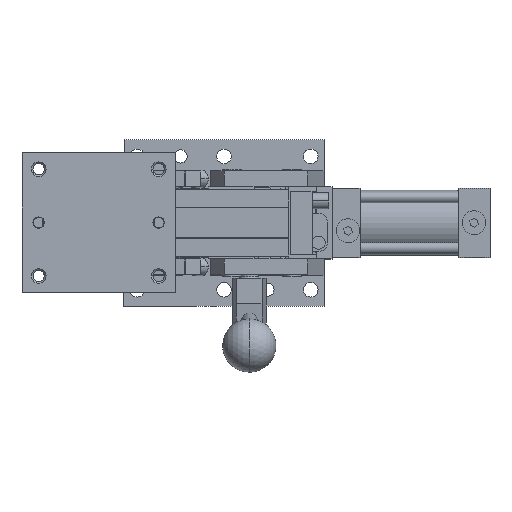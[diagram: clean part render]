
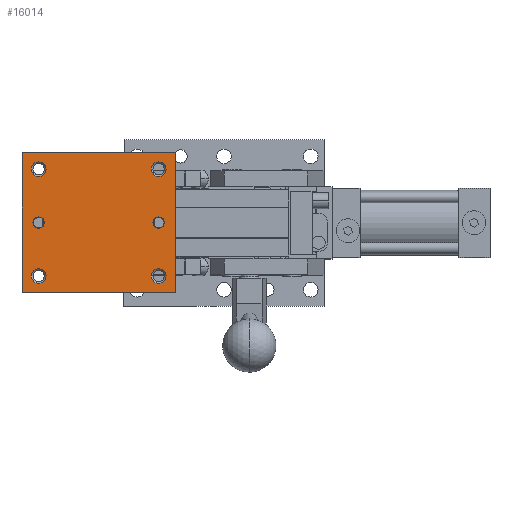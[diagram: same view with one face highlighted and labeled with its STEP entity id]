
A CAD part, top view. The second image highlights one B-rep face of the part: STEP entity #16014.
In plain terms, the highlighted planar face has unit normal (0, 0, 1).
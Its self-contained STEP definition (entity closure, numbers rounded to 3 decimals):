
#191 = EDGE_CURVE ( 'NONE', #2738, #15723, #993, .T. ) ;
#222 = AXIS2_PLACEMENT_3D ( 'NONE', #10926, #7879, #907 ) ;
#231 = CARTESIAN_POINT ( 'NONE',  ( 4.25, 45., 12. ) ) ;
#358 = CARTESIAN_POINT ( 'NONE',  ( -40., 45., 12. ) ) ;
#384 = EDGE_LOOP ( 'NONE', ( #14537, #12279 ) ) ;
#453 = FACE_BOUND ( 'NONE', #11788, .T. ) ;
#600 = VERTEX_POINT ( 'NONE', #3886 ) ;
#641 = AXIS2_PLACEMENT_3D ( 'NONE', #11384, #10239, #3204 ) ;
#681 = VERTEX_POINT ( 'NONE', #14172 ) ;
#726 = FACE_BOUND ( 'NONE', #1777, .T. ) ;
#785 = CIRCLE ( 'NONE', #222, 5.5 ) ;
#907 = DIRECTION ( 'NONE',  ( 1., 0., 0. ) ) ;
#993 = LINE ( 'NONE', #9725, #4895 ) ;
#1035 = EDGE_LOOP ( 'NONE', ( #8105, #9483 ) ) ;
#1039 = DIRECTION ( 'NONE',  ( 1., 0., 0. ) ) ;
#1054 = CARTESIAN_POINT ( 'NONE',  ( -40., -45., 12. ) ) ;
#1110 = EDGE_CURVE ( 'NONE', #17004, #14880, #1320, .T. ) ;
#1169 = DIRECTION ( 'NONE',  ( 1., 0., 0. ) ) ;
#1185 = DIRECTION ( 'NONE',  ( -1., 0., 0. ) ) ;
#1244 = CARTESIAN_POINT ( 'NONE',  ( 40., -45., 12. ) ) ;
#1320 = CIRCLE ( 'NONE', #13153, 5.5 ) ;
#1336 = CARTESIAN_POINT ( 'NONE',  ( -34.5, -45., 12. ) ) ;
#1659 = VERTEX_POINT ( 'NONE', #10738 ) ;
#1684 = AXIS2_PLACEMENT_3D ( 'NONE', #3334, #8815, #10383 ) ;
#1777 = EDGE_LOOP ( 'NONE', ( #2574, #3566 ) ) ;
#1855 = FACE_BOUND ( 'NONE', #2280, .T. ) ;
#1884 = CARTESIAN_POINT ( 'NONE',  ( 4.25, -45., 12. ) ) ;
#1974 = EDGE_CURVE ( 'NONE', #15773, #600, #3594, .T. ) ;
#2280 = EDGE_LOOP ( 'NONE', ( #3527, #3019 ) ) ;
#2315 = DIRECTION ( 'NONE',  ( 0., 0., 1. ) ) ;
#2574 = ORIENTED_EDGE ( 'NONE', *, *, #10318, .F. ) ;
#2578 = CARTESIAN_POINT ( 'NONE',  ( 40., 45., 12. ) ) ;
#2738 = VERTEX_POINT ( 'NONE', #4932 ) ;
#3019 = ORIENTED_EDGE ( 'NONE', *, *, #16844, .F. ) ;
#3167 = AXIS2_PLACEMENT_3D ( 'NONE', #15077, #7686, #1169 ) ;
#3204 = DIRECTION ( 'NONE',  ( 1., 0., 0. ) ) ;
#3334 = CARTESIAN_POINT ( 'NONE',  ( 0., 0., 12. ) ) ;
#3457 = DIRECTION ( 'NONE',  ( 0., 0., 1. ) ) ;
#3478 = CIRCLE ( 'NONE', #7358, 5.5 ) ;
#3527 = ORIENTED_EDGE ( 'NONE', *, *, #13742, .F. ) ;
#3566 = ORIENTED_EDGE ( 'NONE', *, *, #1110, .F. ) ;
#3594 = CIRCLE ( 'NONE', #16614, 5.5 ) ;
#3663 = VERTEX_POINT ( 'NONE', #1336 ) ;
#3668 = CARTESIAN_POINT ( 'NONE',  ( -45.5, -45., 12. ) ) ;
#3869 = CARTESIAN_POINT ( 'NONE',  ( -4.25, -45., 12. ) ) ;
#3886 = CARTESIAN_POINT ( 'NONE',  ( -45.5, 45., 12. ) ) ;
#4344 = EDGE_CURVE ( 'NONE', #10017, #2738, #7534, .T. ) ;
#4474 = VERTEX_POINT ( 'NONE', #3869 ) ;
#4625 = CIRCLE ( 'NONE', #6420, 4.25 ) ;
#4780 = VECTOR ( 'NONE', #8990, 1000. ) ;
#4788 = CIRCLE ( 'NONE', #641, 4.25 ) ;
#4895 = VECTOR ( 'NONE', #1185, 1000. ) ;
#4932 = CARTESIAN_POINT ( 'NONE',  ( 52.5, 57.5, 12. ) ) ;
#5007 = VERTEX_POINT ( 'NONE', #13104 ) ;
#5249 = VECTOR ( 'NONE', #6045, 1000. ) ;
#5321 = ORIENTED_EDGE ( 'NONE', *, *, #8012, .F. ) ;
#5517 = DIRECTION ( 'NONE',  ( 1., 0., 0. ) ) ;
#5519 = AXIS2_PLACEMENT_3D ( 'NONE', #8777, #5726, #6085 ) ;
#5647 = DIRECTION ( 'NONE',  ( 0., 0., 1. ) ) ;
#5726 = DIRECTION ( 'NONE',  ( 0., 0., 1. ) ) ;
#6045 = DIRECTION ( 'NONE',  ( 0., -1., 0. ) ) ;
#6085 = DIRECTION ( 'NONE',  ( 1., 0., 0. ) ) ;
#6099 = DIRECTION ( 'NONE',  ( 0., 0., 1. ) ) ;
#6189 = EDGE_CURVE ( 'NONE', #16985, #5007, #4788, .T. ) ;
#6213 = ORIENTED_EDGE ( 'NONE', *, *, #1974, .F. ) ;
#6407 = VECTOR ( 'NONE', #1039, 1000. ) ;
#6420 = AXIS2_PLACEMENT_3D ( 'NONE', #8420, #5647, #8515 ) ;
#6735 = ORIENTED_EDGE ( 'NONE', *, *, #12243, .T. ) ;
#6939 = VERTEX_POINT ( 'NONE', #11508 ) ;
#7080 = EDGE_CURVE ( 'NONE', #1659, #681, #14474, .T. ) ;
#7110 = ORIENTED_EDGE ( 'NONE', *, *, #9432, .F. ) ;
#7124 = DIRECTION ( 'NONE',  ( 0., 0., 1. ) ) ;
#7358 = AXIS2_PLACEMENT_3D ( 'NONE', #1244, #15237, #12260 ) ;
#7534 = LINE ( 'NONE', #17449, #4780 ) ;
#7614 = FACE_BOUND ( 'NONE', #384, .T. ) ;
#7686 = DIRECTION ( 'NONE',  ( 0., 0., 1. ) ) ;
#7687 = EDGE_CURVE ( 'NONE', #5007, #16985, #4625, .T. ) ;
#7713 = ORIENTED_EDGE ( 'NONE', *, *, #191, .T. ) ;
#7789 = DIRECTION ( 'NONE',  ( 1., 0., 0. ) ) ;
#7816 = CARTESIAN_POINT ( 'NONE',  ( -52.5, 57.5, 12. ) ) ;
#7879 = DIRECTION ( 'NONE',  ( 0., 0., 1. ) ) ;
#7995 = VERTEX_POINT ( 'NONE', #3668 ) ;
#8012 = EDGE_CURVE ( 'NONE', #4474, #17025, #8795, .T. ) ;
#8105 = ORIENTED_EDGE ( 'NONE', *, *, #6189, .F. ) ;
#8420 = CARTESIAN_POINT ( 'NONE',  ( 0., 45., 12. ) ) ;
#8456 = EDGE_CURVE ( 'NONE', #681, #1659, #3478, .T. ) ;
#8475 = EDGE_LOOP ( 'NONE', ( #6213, #14878 ) ) ;
#8515 = DIRECTION ( 'NONE',  ( 1., 0., 0. ) ) ;
#8647 = EDGE_LOOP ( 'NONE', ( #7713, #16476, #6735, #15295 ) ) ;
#8777 = CARTESIAN_POINT ( 'NONE',  ( 40., 45., 12. ) ) ;
#8795 = CIRCLE ( 'NONE', #3167, 4.25 ) ;
#8815 = DIRECTION ( 'NONE',  ( 0., 0., -1. ) ) ;
#8990 = DIRECTION ( 'NONE',  ( 0., 1., 0. ) ) ;
#9142 = AXIS2_PLACEMENT_3D ( 'NONE', #15006, #2315, #7789 ) ;
#9283 = CARTESIAN_POINT ( 'NONE',  ( -40., 45., 12. ) ) ;
#9432 = EDGE_CURVE ( 'NONE', #17025, #4474, #13193, .T. ) ;
#9483 = ORIENTED_EDGE ( 'NONE', *, *, #7687, .F. ) ;
#9725 = CARTESIAN_POINT ( 'NONE',  ( -52.5, 57.5, 12. ) ) ;
#9965 = CARTESIAN_POINT ( 'NONE',  ( 34.5, 45., 12. ) ) ;
#10017 = VERTEX_POINT ( 'NONE', #13328 ) ;
#10160 = CARTESIAN_POINT ( 'NONE',  ( -52.5, 57.5, 12. ) ) ;
#10199 = FACE_OUTER_BOUND ( 'NONE', #8647, .T. ) ;
#10239 = DIRECTION ( 'NONE',  ( 0., 0., 1. ) ) ;
#10318 = EDGE_CURVE ( 'NONE', #14880, #17004, #11728, .T. ) ;
#10383 = DIRECTION ( 'NONE',  ( -1., 0., 0. ) ) ;
#10550 = AXIS2_PLACEMENT_3D ( 'NONE', #1054, #18224, #5517 ) ;
#10738 = CARTESIAN_POINT ( 'NONE',  ( 45.5, -45., 12. ) ) ;
#10926 = CARTESIAN_POINT ( 'NONE',  ( -40., -45., 12. ) ) ;
#11356 = CIRCLE ( 'NONE', #12224, 5.5 ) ;
#11384 = CARTESIAN_POINT ( 'NONE',  ( 0., 45., 12. ) ) ;
#11448 = CIRCLE ( 'NONE', #10550, 5.5 ) ;
#11508 = CARTESIAN_POINT ( 'NONE',  ( -52.5, -57.5, 12. ) ) ;
#11728 = CIRCLE ( 'NONE', #5519, 5.5 ) ;
#11788 = EDGE_LOOP ( 'NONE', ( #7110, #5321 ) ) ;
#12224 = AXIS2_PLACEMENT_3D ( 'NONE', #9283, #3457, #14853 ) ;
#12243 = EDGE_CURVE ( 'NONE', #6939, #10017, #16900, .T. ) ;
#12260 = DIRECTION ( 'NONE',  ( 1., 0., 0. ) ) ;
#12279 = ORIENTED_EDGE ( 'NONE', *, *, #8456, .F. ) ;
#13104 = CARTESIAN_POINT ( 'NONE',  ( -4.25, 45., 12. ) ) ;
#13153 = AXIS2_PLACEMENT_3D ( 'NONE', #2578, #7124, #16848 ) ;
#13154 = FACE_BOUND ( 'NONE', #8475, .T. ) ;
#13193 = CIRCLE ( 'NONE', #14723, 4.25 ) ;
#13254 = PLANE ( 'NONE',  #1684 ) ;
#13328 = CARTESIAN_POINT ( 'NONE',  ( 52.5, -57.5, 12. ) ) ;
#13742 = EDGE_CURVE ( 'NONE', #3663, #7995, #785, .T. ) ;
#13763 = DIRECTION ( 'NONE',  ( 0., 0., 1. ) ) ;
#14111 = CARTESIAN_POINT ( 'NONE',  ( -34.5, 45., 12. ) ) ;
#14172 = CARTESIAN_POINT ( 'NONE',  ( 34.5, -45., 12. ) ) ;
#14449 = EDGE_CURVE ( 'NONE', #15723, #6939, #16138, .T. ) ;
#14474 = CIRCLE ( 'NONE', #9142, 5.5 ) ;
#14537 = ORIENTED_EDGE ( 'NONE', *, *, #7080, .F. ) ;
#14723 = AXIS2_PLACEMENT_3D ( 'NONE', #15069, #13763, #16976 ) ;
#14853 = DIRECTION ( 'NONE',  ( 1., 0., 0. ) ) ;
#14878 = ORIENTED_EDGE ( 'NONE', *, *, #17044, .F. ) ;
#14880 = VERTEX_POINT ( 'NONE', #18291 ) ;
#15006 = CARTESIAN_POINT ( 'NONE',  ( 40., -45., 12. ) ) ;
#15069 = CARTESIAN_POINT ( 'NONE',  ( 0., -45., 12. ) ) ;
#15077 = CARTESIAN_POINT ( 'NONE',  ( 0., -45., 12. ) ) ;
#15237 = DIRECTION ( 'NONE',  ( 0., 0., 1. ) ) ;
#15295 = ORIENTED_EDGE ( 'NONE', *, *, #4344, .T. ) ;
#15723 = VERTEX_POINT ( 'NONE', #10160 ) ;
#15773 = VERTEX_POINT ( 'NONE', #14111 ) ;
#15852 = FACE_BOUND ( 'NONE', #1035, .T. ) ;
#16014 = ADVANCED_FACE ( 'NONE', ( #10199, #726, #7614, #1855, #13154, #453, #15852 ), #13254, .F. ) ;
#16138 = LINE ( 'NONE', #7816, #5249 ) ;
#16476 = ORIENTED_EDGE ( 'NONE', *, *, #14449, .T. ) ;
#16614 = AXIS2_PLACEMENT_3D ( 'NONE', #358, #6099, #17422 ) ;
#16711 = CARTESIAN_POINT ( 'NONE',  ( 52.5, -57.5, 12. ) ) ;
#16844 = EDGE_CURVE ( 'NONE', #7995, #3663, #11448, .T. ) ;
#16848 = DIRECTION ( 'NONE',  ( 1., 0., 0. ) ) ;
#16900 = LINE ( 'NONE', #16711, #6407 ) ;
#16976 = DIRECTION ( 'NONE',  ( 1., 0., 0. ) ) ;
#16985 = VERTEX_POINT ( 'NONE', #231 ) ;
#17004 = VERTEX_POINT ( 'NONE', #9965 ) ;
#17025 = VERTEX_POINT ( 'NONE', #1884 ) ;
#17044 = EDGE_CURVE ( 'NONE', #600, #15773, #11356, .T. ) ;
#17422 = DIRECTION ( 'NONE',  ( 1., 0., 0. ) ) ;
#17449 = CARTESIAN_POINT ( 'NONE',  ( 52.5, 57.5, 12. ) ) ;
#18224 = DIRECTION ( 'NONE',  ( 0., 0., 1. ) ) ;
#18291 = CARTESIAN_POINT ( 'NONE',  ( 45.5, 45., 12. ) ) ;
